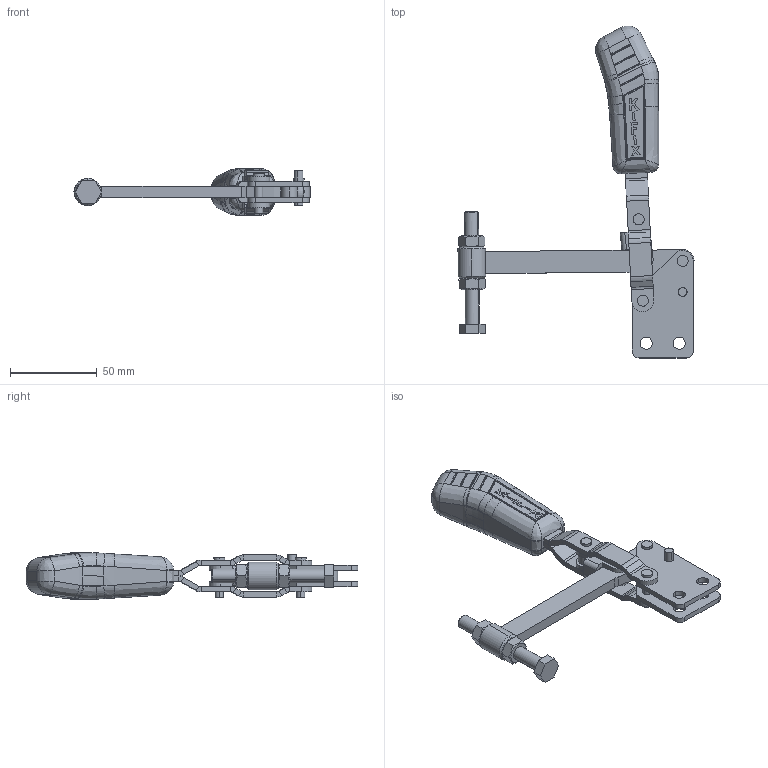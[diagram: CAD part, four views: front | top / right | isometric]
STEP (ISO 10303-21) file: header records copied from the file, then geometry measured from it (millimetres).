
FILE_DESCRIPTION (( 'STEP AP203' ), '1' );
FILE_NAME ('KF-017 RS.STEP', '2014-07-28T18:12:35', ( 'Ricardo' ), ( '' ), 'SwSTEP 2.0', 'SolidWorks 2013', '' );
FILE_SCHEMA (( 'CONFIG_CONTROL_DESIGN' ));
Length unit declared in the file: millimetre
Products named in the file (14): 06.50001; 05.20017; 03.15002; 01.10005; 20.20004; 04.10001; 12.50020; 06.50002; 11.50002; 04.20001; PSB-M8; 07.60001; KF-017 RS; 02.11001
Assembly tree (19 placements, depth 3):
  KF-017 RS
    02.11001  x2
    06.50001  x2
    05.20017  x2
    01.10005  x2
    04.10001
    06.50002  x2
    04.20001
    07.60001
    03.15002
    PSB-M8
      20.20004
      12.50020
      11.50002  x2
Bounding box: 136.04 x 191.31 x 27.02 mm (x, y, z)
Volume: 86958.5 mm3; surface area: 43653.7 mm2
Topology: 18 solids, 18 shells, 670 faces, 1639 edges, 1020 vertices
Faces by surface type: plane 289, cylinder 204, bspline 126, cone 46, torus 5
Entity records: 21320 total; most frequent: CARTESIAN_POINT 8084, ORIENTED_EDGE 2686, DIRECTION 1989, EDGE_CURVE 1343, VERTEX_POINT 850, AXIS2_PLACEMENT_3D 709, EDGE_LOOP 597, LINE 571
